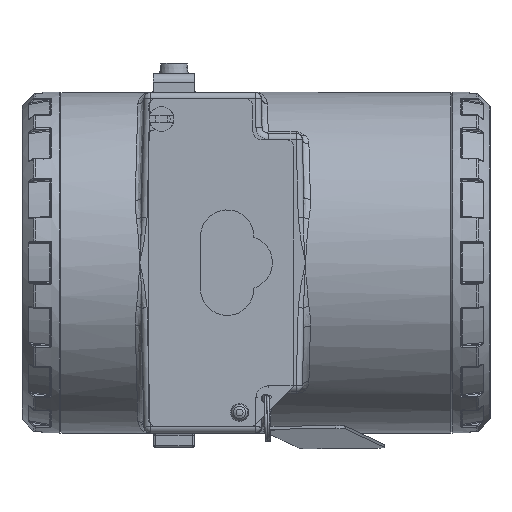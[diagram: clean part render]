
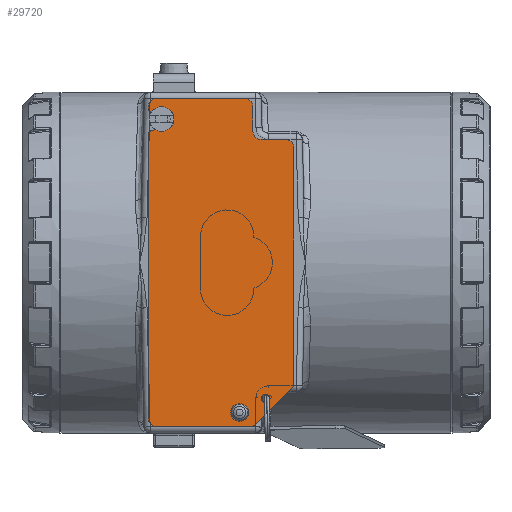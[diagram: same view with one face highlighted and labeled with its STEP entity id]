
A CAD part, left-side view. The second image highlights one B-rep face of the part: STEP entity #29720.
In plain terms, the highlighted planar face has unit normal (-1, 0, 0) as drawn and (0, 0, 1) by its records, which use the part's own axes.
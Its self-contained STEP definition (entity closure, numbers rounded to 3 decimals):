
#2743=FACE_BOUND('',#8767,.T.);
#2744=FACE_BOUND('',#8768,.T.);
#2968=PLANE('',#32914);
#3812=LINE('',#56383,#4958);
#3819=LINE('',#56414,#4965);
#3831=LINE('',#56455,#4977);
#3835=LINE('',#56465,#4981);
#3838=LINE('',#56473,#4984);
#3840=LINE('',#56479,#4986);
#3843=LINE('',#56487,#4989);
#3845=LINE('',#56493,#4991);
#3847=LINE('',#56500,#4993);
#3849=LINE('',#56505,#4995);
#4958=VECTOR('',#38952,10.);
#4965=VECTOR('',#38983,10.);
#4977=VECTOR('',#39019,10.);
#4981=VECTOR('',#39029,10.);
#4984=VECTOR('',#39038,10.);
#4986=VECTOR('',#39046,10.);
#4989=VECTOR('',#39055,10.);
#4991=VECTOR('',#39063,10.);
#4993=VECTOR('',#39071,10.);
#4995=VECTOR('',#39079,10.);
#6768=FACE_OUTER_BOUND('',#8766,.T.);
#8766=EDGE_LOOP('',(#23899,#23900,#23901,#23902,#23903,#23904,#23905,#23906,
#23907,#23908,#23909,#23910,#23911,#23912,#23913,#23914,#23915,#23916,#23917,
#23918));
#8767=EDGE_LOOP('',(#23919,#23920));
#8768=EDGE_LOOP('',(#23921,#23922));
#10762=CIRCLE('',#32867,2.);
#10763=CIRCLE('',#32870,1.);
#10764=CIRCLE('',#32871,1.);
#10766=CIRCLE('',#32874,1.35);
#10767=CIRCLE('',#32875,1.35);
#10769=CIRCLE('',#32878,1.);
#10779=CIRCLE('',#32891,1.);
#10780=CIRCLE('',#32894,2.);
#10781=CIRCLE('',#32897,2.);
#10782=CIRCLE('',#32900,2.);
#10783=CIRCLE('',#32903,2.);
#10784=CIRCLE('',#32906,2.);
#10785=CIRCLE('',#32909,2.);
#10786=CIRCLE('',#32912,2.1);
#13383=VERTEX_POINT('',#56373);
#13384=VERTEX_POINT('',#56375);
#13386=VERTEX_POINT('',#56381);
#13387=VERTEX_POINT('',#56385);
#13388=VERTEX_POINT('',#56386);
#13390=VERTEX_POINT('',#56393);
#13391=VERTEX_POINT('',#56394);
#13393=VERTEX_POINT('',#56401);
#13394=VERTEX_POINT('',#56402);
#13398=VERTEX_POINT('',#56412);
#13413=VERTEX_POINT('',#56447);
#13414=VERTEX_POINT('',#56448);
#13415=VERTEX_POINT('',#56453);
#13416=VERTEX_POINT('',#56457);
#13417=VERTEX_POINT('',#56458);
#13418=VERTEX_POINT('',#56463);
#13419=VERTEX_POINT('',#56467);
#13420=VERTEX_POINT('',#56471);
#13421=VERTEX_POINT('',#56475);
#13422=VERTEX_POINT('',#56481);
#13423=VERTEX_POINT('',#56485);
#13424=VERTEX_POINT('',#56489);
#13425=VERTEX_POINT('',#56495);
#13426=VERTEX_POINT('',#56499);
#16983=EDGE_CURVE('',#13383,#13384,#10762,.T.);
#16987=EDGE_CURVE('',#13386,#13383,#3812,.T.);
#16988=EDGE_CURVE('',#13387,#13388,#10763,.T.);
#16989=EDGE_CURVE('',#13388,#13387,#10764,.T.);
#16992=EDGE_CURVE('',#13390,#13391,#10766,.T.);
#16993=EDGE_CURVE('',#13391,#13390,#10767,.T.);
#16996=EDGE_CURVE('',#13393,#13394,#10769,.T.);
#17002=EDGE_CURVE('',#13398,#13393,#3819,.T.);
#17019=EDGE_CURVE('',#13413,#13414,#10779,.T.);
#17023=EDGE_CURVE('',#13415,#13413,#3831,.T.);
#17024=EDGE_CURVE('',#13416,#13417,#10780,.T.);
#17028=EDGE_CURVE('',#13418,#13416,#3835,.T.);
#17029=EDGE_CURVE('',#13419,#13418,#10781,.T.);
#17032=EDGE_CURVE('',#13420,#13419,#3838,.T.);
#17033=EDGE_CURVE('',#13421,#13420,#10782,.T.);
#17035=EDGE_CURVE('',#13384,#13421,#3840,.T.);
#17036=EDGE_CURVE('',#13422,#13386,#10783,.T.);
#17039=EDGE_CURVE('',#13423,#13422,#3843,.T.);
#17040=EDGE_CURVE('',#13424,#13423,#10784,.T.);
#17042=EDGE_CURVE('',#13394,#13424,#3845,.T.);
#17043=EDGE_CURVE('',#13425,#13415,#10785,.T.);
#17045=EDGE_CURVE('',#13414,#13426,#3847,.T.);
#17047=EDGE_CURVE('',#13426,#13398,#10786,.T.);
#17048=EDGE_CURVE('',#13417,#13425,#3849,.T.);
#23899=ORIENTED_EDGE('',*,*,#16996,.F.);
#23900=ORIENTED_EDGE('',*,*,#17002,.F.);
#23901=ORIENTED_EDGE('',*,*,#17047,.F.);
#23902=ORIENTED_EDGE('',*,*,#17045,.F.);
#23903=ORIENTED_EDGE('',*,*,#17019,.F.);
#23904=ORIENTED_EDGE('',*,*,#17023,.F.);
#23905=ORIENTED_EDGE('',*,*,#17043,.F.);
#23906=ORIENTED_EDGE('',*,*,#17048,.F.);
#23907=ORIENTED_EDGE('',*,*,#17024,.F.);
#23908=ORIENTED_EDGE('',*,*,#17028,.F.);
#23909=ORIENTED_EDGE('',*,*,#17029,.F.);
#23910=ORIENTED_EDGE('',*,*,#17032,.F.);
#23911=ORIENTED_EDGE('',*,*,#17033,.F.);
#23912=ORIENTED_EDGE('',*,*,#17035,.F.);
#23913=ORIENTED_EDGE('',*,*,#16983,.F.);
#23914=ORIENTED_EDGE('',*,*,#16987,.F.);
#23915=ORIENTED_EDGE('',*,*,#17036,.F.);
#23916=ORIENTED_EDGE('',*,*,#17039,.F.);
#23917=ORIENTED_EDGE('',*,*,#17040,.F.);
#23918=ORIENTED_EDGE('',*,*,#17042,.F.);
#23919=ORIENTED_EDGE('',*,*,#16988,.T.);
#23920=ORIENTED_EDGE('',*,*,#16989,.T.);
#23921=ORIENTED_EDGE('',*,*,#16992,.T.);
#23922=ORIENTED_EDGE('',*,*,#16993,.T.);
#29720=ADVANCED_FACE('',(#6768,#2743,#2744),#2968,.T.);
#32867=AXIS2_PLACEMENT_3D('',#56376,#38945,#38946);
#32870=AXIS2_PLACEMENT_3D('',#56387,#38955,#38956);
#32871=AXIS2_PLACEMENT_3D('',#56388,#38957,#38958);
#32874=AXIS2_PLACEMENT_3D('',#56395,#38964,#38965);
#32875=AXIS2_PLACEMENT_3D('',#56396,#38966,#38967);
#32878=AXIS2_PLACEMENT_3D('',#56403,#38973,#38974);
#32891=AXIS2_PLACEMENT_3D('',#56449,#39012,#39013);
#32894=AXIS2_PLACEMENT_3D('',#56459,#39022,#39023);
#32897=AXIS2_PLACEMENT_3D('',#56468,#39032,#39033);
#32900=AXIS2_PLACEMENT_3D('',#56476,#39041,#39042);
#32903=AXIS2_PLACEMENT_3D('',#56482,#39049,#39050);
#32906=AXIS2_PLACEMENT_3D('',#56490,#39058,#39059);
#32909=AXIS2_PLACEMENT_3D('',#56496,#39066,#39067);
#32912=AXIS2_PLACEMENT_3D('',#56503,#39075,#39076);
#32914=AXIS2_PLACEMENT_3D('',#56506,#39080,#39081);
#38945=DIRECTION('center_axis',(0.,0.,1.));
#38946=DIRECTION('ref_axis',(-0.707,0.707,0.));
#38952=DIRECTION('',(-1.,0.,0.));
#38955=DIRECTION('center_axis',(0.,0.,-1.));
#38956=DIRECTION('ref_axis',(1.,0.,0.));
#38957=DIRECTION('center_axis',(0.,0.,-1.));
#38958=DIRECTION('ref_axis',(1.,0.,0.));
#38964=DIRECTION('center_axis',(0.,0.,-1.));
#38965=DIRECTION('ref_axis',(1.,0.,0.));
#38966=DIRECTION('center_axis',(0.,0.,-1.));
#38967=DIRECTION('ref_axis',(1.,0.,0.));
#38973=DIRECTION('center_axis',(0.,0.,-1.));
#38974=DIRECTION('ref_axis',(-0.793,0.609,0.));
#38983=DIRECTION('',(-0.259,0.966,0.));
#39012=DIRECTION('center_axis',(0.,0.,-1.));
#39013=DIRECTION('ref_axis',(0.609,0.793,0.));
#39019=DIRECTION('',(1.,0.,0.));
#39022=DIRECTION('center_axis',(0.,0.,-1.));
#39023=DIRECTION('ref_axis',(-0.924,-0.383,0.));
#39029=DIRECTION('',(-0.707,0.707,0.));
#39032=DIRECTION('center_axis',(0.,0.,-1.));
#39033=DIRECTION('ref_axis',(-0.383,-0.924,0.));
#39038=DIRECTION('',(-1.,0.,0.));
#39041=DIRECTION('center_axis',(0.,0.,-1.));
#39042=DIRECTION('ref_axis',(0.707,-0.707,0.));
#39046=DIRECTION('',(0.,-1.,0.));
#39049=DIRECTION('center_axis',(0.,0.,-1.));
#39050=DIRECTION('ref_axis',(0.707,-0.707,0.));
#39055=DIRECTION('',(0.,-1.,0.));
#39058=DIRECTION('center_axis',(0.,0.,-1.));
#39059=DIRECTION('ref_axis',(0.707,0.707,0.));
#39063=DIRECTION('',(1.,0.,0.));
#39066=DIRECTION('center_axis',(0.,0.,-1.));
#39067=DIRECTION('ref_axis',(-0.707,0.707,0.));
#39071=DIRECTION('',(0.259,-0.966,0.));
#39075=DIRECTION('center_axis',(0.,0.,1.));
#39076=DIRECTION('ref_axis',(-0.966,-0.259,0.));
#39079=DIRECTION('',(0.,1.,0.));
#39080=DIRECTION('center_axis',(0.,0.,1.));
#39081=DIRECTION('ref_axis',(1.,0.,0.));
#56373=CARTESIAN_POINT('',(32.,-7.75,0.7));
#56375=CARTESIAN_POINT('',(30.,-9.75,0.7));
#56376=CARTESIAN_POINT('Origin',(32.,-9.75,0.7));
#56381=CARTESIAN_POINT('',(38.,-7.75,0.7));
#56383=CARTESIAN_POINT('',(40.,-7.75,0.7));
#56385=CARTESIAN_POINT('',(-32.,-10.75,0.7));
#56386=CARTESIAN_POINT('',(-34.,-10.75,0.7));
#56387=CARTESIAN_POINT('Origin',(-33.,-10.75,0.7));
#56388=CARTESIAN_POINT('Origin',(-33.,-10.75,0.7));
#56393=CARTESIAN_POINT('',(-35.15,-4.5,0.7));
#56394=CARTESIAN_POINT('',(-37.85,-4.5,0.7));
#56395=CARTESIAN_POINT('Origin',(-36.5,-4.5,0.7));
#56396=CARTESIAN_POINT('Origin',(-36.5,-4.5,0.7));
#56401=CARTESIAN_POINT('',(36.641,16.491,0.7));
#56402=CARTESIAN_POINT('',(37.606,17.75,0.7));
#56403=CARTESIAN_POINT('Origin',(37.606,16.75,0.7));
#56412=CARTESIAN_POINT('',(37.028,15.044,0.7));
#56414=CARTESIAN_POINT('',(37.028,15.044,0.7));
#56447=CARTESIAN_POINT('',(31.188,17.75,0.7));
#56448=CARTESIAN_POINT('',(32.154,17.009,0.7));
#56449=CARTESIAN_POINT('Origin',(31.188,16.75,0.7));
#56453=CARTESIAN_POINT('',(-38.,17.75,0.7));
#56455=CARTESIAN_POINT('',(-40.,17.75,0.7));
#56457=CARTESIAN_POINT('',(-39.414,-8.336,0.7));
#56458=CARTESIAN_POINT('',(-40.,-6.922,0.7));
#56459=CARTESIAN_POINT('Origin',(-38.,-6.922,0.7));
#56463=CARTESIAN_POINT('',(-30.586,-17.164,0.7));
#56465=CARTESIAN_POINT('',(-30.,-17.75,0.7));
#56467=CARTESIAN_POINT('',(-29.172,-17.75,0.7));
#56468=CARTESIAN_POINT('Origin',(-29.172,-15.75,0.7));
#56471=CARTESIAN_POINT('',(28.,-17.75,0.7));
#56473=CARTESIAN_POINT('',(30.,-17.75,0.7));
#56475=CARTESIAN_POINT('',(30.,-15.75,0.7));
#56476=CARTESIAN_POINT('Origin',(28.,-15.75,0.7));
#56479=CARTESIAN_POINT('',(30.,-7.75,0.7));
#56481=CARTESIAN_POINT('',(40.,-5.75,0.7));
#56482=CARTESIAN_POINT('Origin',(38.,-5.75,0.7));
#56485=CARTESIAN_POINT('',(40.,15.75,0.7));
#56487=CARTESIAN_POINT('',(40.,17.75,0.7));
#56489=CARTESIAN_POINT('',(38.,17.75,0.7));
#56490=CARTESIAN_POINT('Origin',(38.,15.75,0.7));
#56493=CARTESIAN_POINT('',(36.303,17.75,0.7));
#56495=CARTESIAN_POINT('',(-40.,15.75,0.7));
#56496=CARTESIAN_POINT('Origin',(-38.,15.75,0.7));
#56499=CARTESIAN_POINT('',(32.972,13.956,0.7));
#56500=CARTESIAN_POINT('',(31.955,17.75,0.7));
#56503=CARTESIAN_POINT('Origin',(35.,14.5,0.7));
#56505=CARTESIAN_POINT('',(-40.,-7.75,0.7));
#56506=CARTESIAN_POINT('Origin',(2.007,1.468,0.7));
